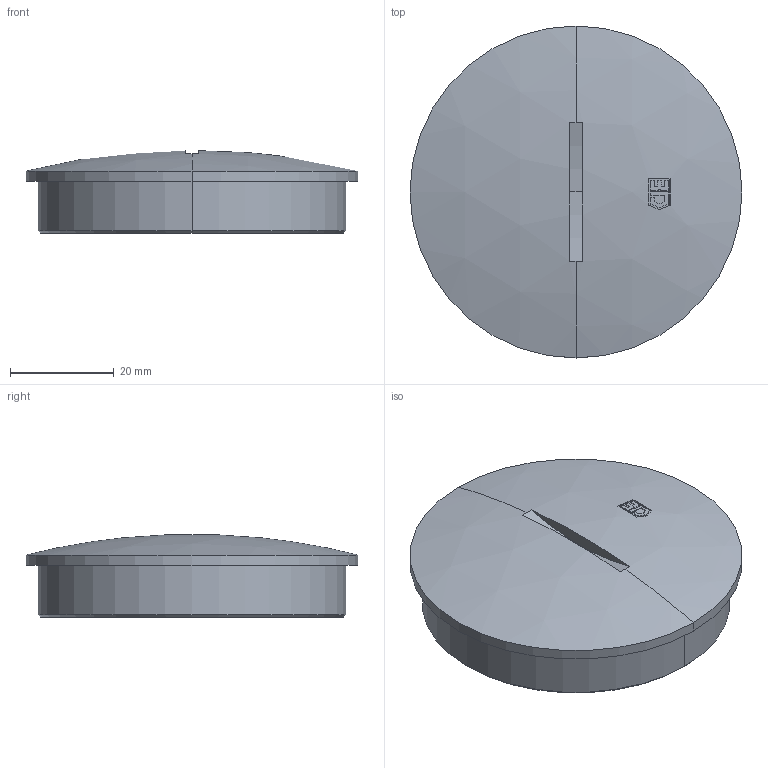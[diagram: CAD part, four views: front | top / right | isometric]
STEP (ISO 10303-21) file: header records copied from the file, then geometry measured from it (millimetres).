
FILE_DESCRIPTION (( 'STEP AP203' ), '1' );
FILE_NAME ('1048 M.STEP', '2005-11-22T08:57:56', ( ' ' ), ( '' ), 'SwSTEP 2.0', 'SolidWorks 2005278', '' );
FILE_SCHEMA (( 'CONFIG_CONTROL_DESIGN' ));
Length unit declared in the file: millimetre
Products named in the file (1): 1048 M
Bounding box: 64 x 64 x 15.92 mm (x, y, z)
Volume: 18322.4 mm3; surface area: 10454.4 mm2
Topology: 1 solids, 1 shells, 54 faces, 137 edges, 90 vertices
Faces by surface type: plane 39, cylinder 8, sphere 5, cone 2
Entity records: 1760 total; most frequent: DIRECTION 325, CARTESIAN_POINT 306, ORIENTED_EDGE 274, AXIS2_PLACEMENT_3D 141, EDGE_CURVE 137, VERTEX_POINT 90, CIRCLE 86, EDGE_LOOP 59
